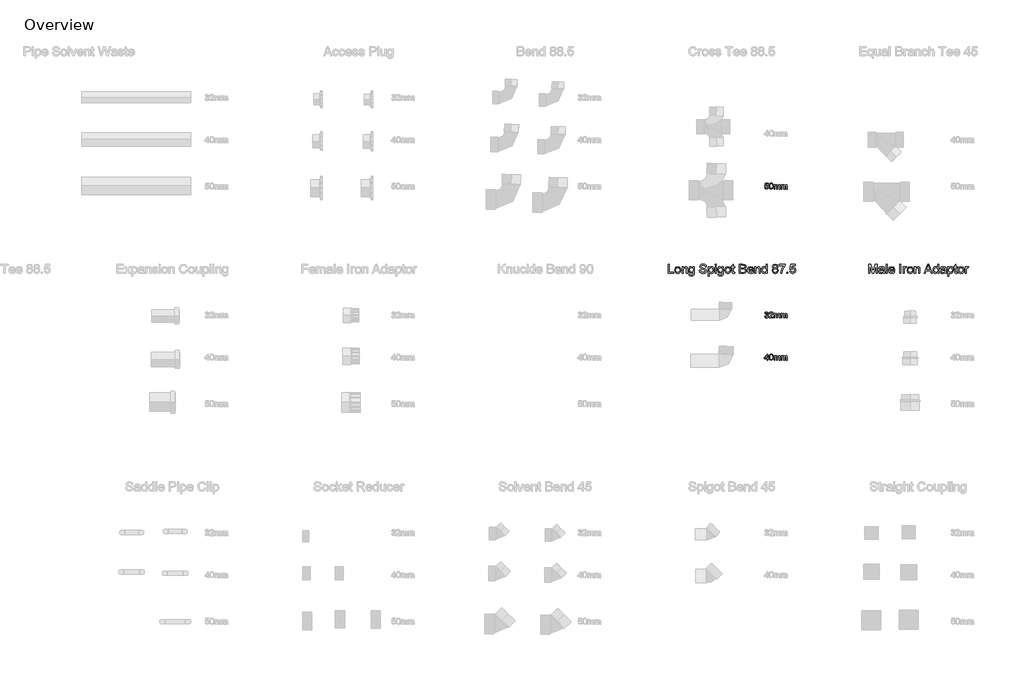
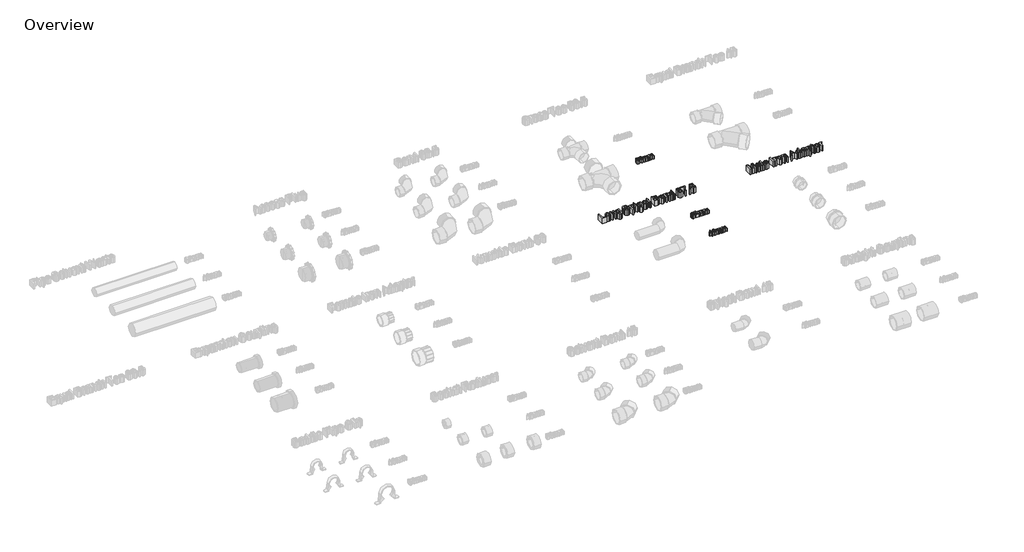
# One storey, part 8 of 10: 5 proxies.
"""IFC4 building model written with IfcOpenShell, lengths in millimetres."""

from ifc_helpers import new_model, si_unit, origin, origin_with_axes, place, context, project, spatial, polyline, outline, extrude, element, save

model = new_model("IFC4")

# Units and contexts
model_context = context("Model", 3, world=origin())
ifc_project = project(units=[si_unit("LENGTHUNIT", "METRE", prefix="MILLI")], contexts=[model_context])

# Site, building, storey
site = spatial("IfcSite", under=ifc_project)
building = spatial("IfcBuilding", under=site)
storey = spatial("IfcBuildingStorey", under=building, Name="Overview", Elevation=0.0)

# Proxies
placement = place(None, origin())
element("IfcBuildingElementProxy", 1, Name="20mm Arial", ObjectType="20mm Arial", at=placement, inside=storey, context=model_context, shape_type="SweptSolid", body=[
    extrude(outline(polyline([(-498.2349117, 4421.4652453), (-495.7733732, 4421.7729376), (-494.4152001, 4419.1815914), (-491.8743347, 4418.3883222), (-488.8839501, 4419.4796684), (-487.7733732, 4422.1815914), (-488.8743347, 4424.7272645), (-491.6724117, 4425.7344761), (-493.3983732, 4425.4652453), (-493.1243347, 4427.9267837), (-489.9368347, 4428.6046684), (-488.6964501, 4430.7777453), (-489.5954886, 4432.7032261), (-491.9127963, 4433.4652453), (-494.2589501, 4432.6960145), (-495.4656809, 4430.3883222), (-497.9272194, 4430.6960145), (-495.9127963, 4434.5565914), (-491.9993347, 4435.9267837), (-489.0305847, 4435.251303), (-486.9536617, 4433.4051491), (-486.2349117, 4430.9219761), (-486.917604, 4428.6527453), (-488.9368347, 4427.0229376), (-486.2541424, 4425.3402453), (-485.3118347, 4422.1383222), (-487.1964501, 4417.7344761), (-491.9608732, 4415.9267837), (-496.2781809, 4417.470053), (-498.2349117, 4421.4652453)])), origin_with_axes(), (0.0, 0.0, 1.0), 15.0),
    extrude(outline(polyline([(-470.542604, 4418.6960145), (-470.542604, 4416.2344761), (-483.4656809, 4416.2344761), (-483.2012578, 4417.9315914), (-481.7060655, 4420.5445722), (-478.6243347, 4423.3979376), (-474.3743347, 4427.4988991), (-473.3118347, 4430.2873607), (-474.3142386, 4432.5445722), (-476.9320271, 4433.4652453), (-479.6603924, 4432.5662068), (-480.6964501, 4430.0806299), (-483.1579886, 4430.3883222), (-481.2709694, 4434.5085145), (-476.8791424, 4435.9267837), (-472.4728924, 4434.3498607), (-470.8502963, 4430.4363991), (-471.2877963, 4428.1022645), (-472.7421232, 4425.688803), (-476.2685655, 4422.3162068), (-479.1002963, 4419.9484184), (-480.2108732, 4418.6960145), (-470.542604, 4418.6960145)])), origin_with_axes(), (0.0, 0.0, 1.0), 15.0),
    extrude(outline(polyline([(-467.4656809, 4416.2344761), (-467.4656809, 4430.6960145), (-465.0041424, 4430.6960145), (-465.0041424, 4428.3162068), (-463.3118347, 4430.2657261), (-460.9031809, 4431.0037068), (-458.4368347, 4430.251303), (-457.0810655, 4428.1431299), (-452.7349117, 4431.0037068), (-449.5161617, 4429.813803), (-448.3887578, 4426.1479376), (-448.3887578, 4416.2344761), (-450.8502963, 4416.2344761), (-450.8502963, 4425.0902453), (-451.0786617, 4427.1455337), (-455.7325078, 4427.5565914), (-456.6964501, 4424.3979376), (-456.6964501, 4416.2344761), (-459.1579886, 4416.2344761), (-459.1579886, 4425.3642837), (-459.7277001, 4427.7488991), (-461.5954886, 4428.5421684), (-463.417604, 4428.0133222), (-464.6291424, 4426.4652453), (-465.0041424, 4423.5277453), (-465.0041424, 4416.2344761), (-467.4656809, 4416.2344761)])), origin_with_axes(), (0.0, 0.0, 1.0), 15.0),
    extrude(outline(polyline([(-444.6964501, 4416.2344761), (-444.6964501, 4430.6960145), (-442.2349117, 4430.6960145), (-442.2349117, 4428.3162068), (-440.542604, 4430.2657261), (-438.1339501, 4431.0037068), (-435.667604, 4430.251303), (-434.3118347, 4428.1431299), (-429.9656809, 4431.0037068), (-426.7469309, 4429.813803), (-425.6195271, 4426.1479376), (-425.6195271, 4416.2344761), (-428.0810655, 4416.2344761), (-428.0810655, 4425.0902453), (-428.3094309, 4427.1455337), (-432.9632771, 4427.5565914), (-433.9272194, 4424.3979376), (-433.9272194, 4416.2344761), (-436.3887578, 4416.2344761), (-436.3887578, 4425.3642837), (-436.9584694, 4427.7488991), (-438.8262578, 4428.5421684), (-440.6483732, 4428.0133222), (-441.8599117, 4426.4652453), (-442.2349117, 4423.5277453), (-442.2349117, 4416.2344761), (-444.6964501, 4416.2344761)])), origin_with_axes(), (0.0, 0.0, 1.0), 15.0),
])
element("IfcBuildingElementProxy", 2, Name="20mm Arial", ObjectType="20mm Arial", at=placement, inside=storey, context=model_context, shape_type="SweptSolid", body=[
    extrude(outline(polyline([(-490.2349117, 4280.5685355), (-490.2349117, 4285.1839201), (-499.1579886, 4285.1839201), (-499.1579886, 4287.6454586), (-489.6195271, 4299.9531509), (-487.7733732, 4299.9531509), (-487.7733732, 4287.6454586), (-485.3118347, 4287.6454586), (-485.3118347, 4285.1839201), (-487.7733732, 4285.1839201), (-487.7733732, 4280.5685355), (-490.2349117, 4280.5685355)]), holes=[polyline([(-490.2349117, 4287.6454586), (-490.2349117, 4295.2512278), (-496.1291424, 4287.6454586), (-490.2349117, 4287.6454586)])]), origin_with_axes(), (0.0, 0.0, 1.0), 15.0),
    extrude(outline(polyline([(-483.1579886, 4290.2560355), (-482.4344309, 4295.9219009), (-480.2853924, 4299.1887278), (-476.6964501, 4300.2608432), (-473.8214501, 4299.6262278), (-471.8358732, 4297.7969009), (-470.6820271, 4294.8834393), (-470.2349117, 4290.2560355), (-470.9512578, 4284.6142086), (-473.0930847, 4281.3401701), (-476.6964501, 4280.2608432), (-481.1964501, 4282.1358432), (-483.1579886, 4290.2560355)]), holes=[polyline([(-480.6964501, 4290.2608432), (-479.542604, 4284.1478624), (-476.6964501, 4282.7223816), (-473.8502963, 4284.1526701), (-472.6964501, 4290.2608432), (-473.8118347, 4296.3041124), (-476.7252963, 4297.7993047), (-479.5041424, 4296.481997), (-480.6964501, 4290.2608432)])]), origin_with_axes(), (0.0, 0.0, 1.0), 15.0),
    extrude(outline(polyline([(-467.4656809, 4280.5685355), (-467.4656809, 4295.030074), (-465.0041424, 4295.030074), (-465.0041424, 4292.6502663), (-463.3118347, 4294.5997855), (-460.9031809, 4295.3377663), (-458.4368347, 4294.5853624), (-457.0810655, 4292.4771893), (-452.7349117, 4295.3377663), (-449.5161617, 4294.1478624), (-448.3887578, 4290.481997), (-448.3887578, 4280.5685355), (-450.8502963, 4280.5685355), (-450.8502963, 4289.4243047), (-451.0786617, 4291.4795932), (-455.7325078, 4291.8906509), (-456.6964501, 4288.731997), (-456.6964501, 4280.5685355), (-459.1579886, 4280.5685355), (-459.1579886, 4289.6983432), (-459.7277001, 4292.0829586), (-461.5954886, 4292.8762278), (-463.417604, 4292.3473816), (-464.6291424, 4290.7993047), (-465.0041424, 4287.8618047), (-465.0041424, 4280.5685355), (-467.4656809, 4280.5685355)])), origin_with_axes(), (0.0, 0.0, 1.0), 15.0),
    extrude(outline(polyline([(-444.6964501, 4280.5685355), (-444.6964501, 4295.030074), (-442.2349117, 4295.030074), (-442.2349117, 4292.6502663), (-440.542604, 4294.5997855), (-438.1339501, 4295.3377663), (-435.667604, 4294.5853624), (-434.3118347, 4292.4771893), (-429.9656809, 4295.3377663), (-426.7469309, 4294.1478624), (-425.6195271, 4290.481997), (-425.6195271, 4280.5685355), (-428.0810655, 4280.5685355), (-428.0810655, 4289.4243047), (-428.3094309, 4291.4795932), (-432.9632771, 4291.8906509), (-433.9272194, 4288.731997), (-433.9272194, 4280.5685355), (-436.3887578, 4280.5685355), (-436.3887578, 4289.6983432), (-436.9584694, 4292.0829586), (-438.8262578, 4292.8762278), (-440.6483732, 4292.3473816), (-441.8599117, 4290.7993047), (-442.2349117, 4287.8618047), (-442.2349117, 4280.5685355), (-444.6964501, 4280.5685355)])), origin_with_axes(), (0.0, 0.0, 1.0), 15.0),
])
element("IfcBuildingElementProxy", 3, Name="20mm Arial", ObjectType="20mm Arial", at=placement, inside=storey, context=model_context, shape_type="SweptSolid", body=[
    extrude(outline(polyline([(-498.2349117, 4836.1445961), (-495.7733732, 4836.4522884), (-494.5329886, 4833.9162307), (-491.9608732, 4833.067673), (-488.8743347, 4834.2479615), (-487.7733732, 4837.380173), (-488.8046232, 4840.3032499), (-491.9224117, 4841.3753653), (-494.0834694, 4840.9474807), (-495.4656809, 4839.8369038), (-497.9272194, 4840.1445961), (-495.7733732, 4850.2984422), (-486.2349117, 4850.2984422), (-486.2349117, 4847.8369038), (-493.7829886, 4847.8369038), (-494.8358732, 4842.4138269), (-491.2349117, 4843.8369038), (-487.0257771, 4842.0724807), (-485.3118347, 4837.5340192), (-486.855104, 4832.9667115), (-491.9704886, 4830.6061346), (-496.3142386, 4832.1229615), (-498.2349117, 4836.1445961)])), origin_with_axes(), (0.0, 0.0, 1.0), 15.0),
    extrude(outline(polyline([(-483.1579886, 4840.6013269), (-482.4344309, 4846.2671922), (-480.2853924, 4849.5340192), (-476.6964501, 4850.6061346), (-473.8214501, 4849.9715192), (-471.8358732, 4848.1421922), (-470.6820271, 4845.2287307), (-470.2349117, 4840.6013269), (-470.9512578, 4834.9594999), (-473.0930847, 4831.6854615), (-476.6964501, 4830.6061346), (-481.1964501, 4832.4811346), (-483.1579886, 4840.6013269)]), holes=[polyline([(-480.6964501, 4840.6061346), (-479.542604, 4834.4931538), (-476.6964501, 4833.067673), (-473.8502963, 4834.4979615), (-472.6964501, 4840.6061346), (-473.8118347, 4846.6494038), (-476.7252963, 4848.1445961), (-479.5041424, 4846.8272884), (-480.6964501, 4840.6061346)])]), origin_with_axes(), (0.0, 0.0, 1.0), 15.0),
    extrude(outline(polyline([(-467.4656809, 4830.9138269), (-467.4656809, 4845.3753653), (-465.0041424, 4845.3753653), (-465.0041424, 4842.9955576), (-463.3118347, 4844.9450769), (-460.9031809, 4845.6830576), (-458.4368347, 4844.9306538), (-457.0810655, 4842.8224807), (-452.7349117, 4845.6830576), (-449.5161617, 4844.4931538), (-448.3887578, 4840.8272884), (-448.3887578, 4830.9138269), (-450.8502963, 4830.9138269), (-450.8502963, 4839.7695961), (-451.0786617, 4841.8248846), (-455.7325078, 4842.2359422), (-456.6964501, 4839.0772884), (-456.6964501, 4830.9138269), (-459.1579886, 4830.9138269), (-459.1579886, 4840.0436346), (-459.7277001, 4842.4282499), (-461.5954886, 4843.2215192), (-463.417604, 4842.692673), (-464.6291424, 4841.1445961), (-465.0041424, 4838.2070961), (-465.0041424, 4830.9138269), (-467.4656809, 4830.9138269)])), origin_with_axes(), (0.0, 0.0, 1.0), 15.0),
    extrude(outline(polyline([(-444.6964501, 4830.9138269), (-444.6964501, 4845.3753653), (-442.2349117, 4845.3753653), (-442.2349117, 4842.9955576), (-440.542604, 4844.9450769), (-438.1339501, 4845.6830576), (-435.667604, 4844.9306538), (-434.3118347, 4842.8224807), (-429.9656809, 4845.6830576), (-426.7469309, 4844.4931538), (-425.6195271, 4840.8272884), (-425.6195271, 4830.9138269), (-428.0810655, 4830.9138269), (-428.0810655, 4839.7695961), (-428.3094309, 4841.8248846), (-432.9632771, 4842.2359422), (-433.9272194, 4839.0772884), (-433.9272194, 4830.9138269), (-436.3887578, 4830.9138269), (-436.3887578, 4840.0436346), (-436.9584694, 4842.4282499), (-438.8262578, 4843.2215192), (-440.6483732, 4842.692673), (-441.8599117, 4841.1445961), (-442.2349117, 4838.2070961), (-442.2349117, 4830.9138269), (-444.6964501, 4830.9138269)])), origin_with_axes(), (0.0, 0.0, 1.0), 15.0),
])
element("IfcBuildingElementProxy", 4, Name="600mm Arial", ObjectType="600mm Arial", at=placement, inside=storey, context=model_context, shape_type="SweptSolid", body=[
    extrude(outline(polyline([(-808.3769703, 4559.5713154), (-808.3769703, 4589.1097769), (-804.6846626, 4589.1097769), (-804.6846626, 4563.2636231), (-789.9154319, 4563.2636231), (-789.9154319, 4559.5713154), (-808.3769703, 4559.5713154)])), origin_with_axes(), (0.0, 0.0, 1.0), 25.0),
    extrude(outline(polyline([(-787.1462011, 4570.4174692), (-783.9514896, 4579.3237192), (-777.4466819, 4581.7251615), (-770.4695184, 4578.8008827), (-767.7615857, 4570.7203538), (-768.9587011, 4564.1506423), (-772.4454799, 4560.4330942), (-777.4466819, 4559.1097769), (-784.4671146, 4562.0232385), (-787.1462011, 4570.4174692)]), holes=[polyline([(-783.4538934, 4570.4246808), (-781.7447588, 4564.702325), (-777.4466819, 4562.8020846), (-773.163028, 4564.7131423), (-771.4538934, 4570.5400654), (-773.1738453, 4576.1326135), (-777.4466819, 4578.0328538), (-781.7447588, 4576.139825), (-783.4538934, 4570.4246808)])]), origin_with_axes(), (0.0, 0.0, 1.0), 25.0),
    extrude(outline(polyline([(-763.6077396, 4559.5713154), (-763.6077396, 4581.2636231), (-759.9154319, 4581.2636231), (-759.9154319, 4578.2347769), (-753.2375472, 4581.7251615), (-749.7507684, 4581.0220365), (-747.3709607, 4579.1758827), (-746.2639896, 4576.4607385), (-746.069278, 4572.8910269), (-746.069278, 4559.5713154), (-749.7615857, 4559.5713154), (-749.7615857, 4572.3934308), (-750.1870665, 4575.6602577), (-751.6906722, 4577.3874212), (-754.225528, 4578.0328538), (-758.2315376, 4576.5833346), (-759.9154319, 4571.0809308), (-759.9154319, 4559.5713154), (-763.6077396, 4559.5713154)])), origin_with_axes(), (0.0, 0.0, 1.0), 25.0),
    extrude(outline(polyline([(-741.9154319, 4557.7251615), (-738.2231242, 4557.2636231), (-737.0260088, 4555.3165077), (-733.4418742, 4554.4943923), (-729.663028, 4555.4246808), (-727.8601434, 4558.0352577), (-727.6077396, 4562.3405462), (-733.3769703, 4559.5713154), (-740.022403, 4562.7948731), (-742.3769703, 4570.5256423), (-741.3204799, 4576.2479981), (-738.2627876, 4580.2972769), (-733.5572588, 4581.7251615), (-727.6077396, 4578.4943923), (-727.6077396, 4581.2636231), (-723.9154319, 4581.2636231), (-723.9154319, 4562.5352577), (-724.9250472, 4555.3633827), (-728.1233646, 4552.0280462), (-733.5139896, 4550.8020846), (-739.6546146, 4552.5292481), (-741.9154319, 4557.7251615)]), holes=[polyline([(-738.6846626, 4570.7780462), (-737.1089415, 4565.0629019), (-733.1534126, 4563.2636231), (-729.2050953, 4565.0520846), (-727.6077396, 4570.6698731), (-729.2519703, 4576.1758827), (-733.2111049, 4578.0328538), (-737.0873069, 4576.2047288), (-738.6846626, 4570.7780462)])]), origin_with_axes(), (0.0, 0.0, 1.0), 25.0),
    extrude(outline(polyline([(-707.7615857, 4569.7251615), (-704.069278, 4569.7251615), (-702.8793742, 4566.0292481), (-699.9731242, 4563.6927096), (-695.5452396, 4562.8020846), (-691.6870665, 4563.4763635), (-689.1954799, 4565.3297288), (-688.3769703, 4567.8068923), (-688.9899511, 4570.1109788), (-691.4995665, 4571.7876615), (-696.8757684, 4573.1975173), (-702.663028, 4575.0184308), (-705.803653, 4577.7660269), (-706.8385088, 4581.4367), (-705.5584607, 4585.6157865), (-701.819278, 4588.5653058), (-696.3457203, 4589.5713154), (-690.5043742, 4588.5184308), (-686.6101434, 4585.4246808), (-685.1462011, 4580.8020846), (-688.8385088, 4580.8020846), (-690.9298549, 4584.5953538), (-696.2014896, 4585.8790077), (-701.4875472, 4584.6097769), (-703.1462011, 4581.5448731), (-701.9707203, 4578.9847769), (-695.9418742, 4576.9222769), (-689.4082203, 4575.0689115), (-685.834903, 4572.0761231), (-684.6846626, 4567.9006423), (-686.0079799, 4563.483575), (-689.8156722, 4560.2600173), (-695.4010088, 4559.1097769), (-701.9959607, 4560.3501615), (-706.1678357, 4564.0857385), (-707.7615857, 4569.7251615)])), origin_with_axes(), (0.0, 0.0, 1.0), 25.0),
    extrude(outline(polyline([(-679.6077396, 4551.2636231), (-679.6077396, 4581.2636231), (-675.9154319, 4581.2636231), (-675.9154319, 4577.6434308), (-673.3625472, 4580.7047288), (-669.9154319, 4581.7251615), (-665.2351434, 4580.2972769), (-662.1774511, 4576.2732385), (-661.1462011, 4570.5833346), (-662.3108646, 4564.6013635), (-665.6930761, 4560.5268442), (-670.3625472, 4559.1097769), (-673.5752876, 4560.0580942), (-675.9154319, 4562.4559308), (-675.9154319, 4551.2636231), (-679.6077396, 4551.2636231)]), holes=[polyline([(-675.9154319, 4570.2443923), (-674.3180761, 4564.6193923), (-670.4418742, 4562.8020846), (-666.4863453, 4564.6842962), (-664.8385088, 4570.5184308), (-666.4466819, 4576.1578538), (-670.2904319, 4578.0328538), (-674.209903, 4576.0388635), (-675.9154319, 4570.2443923)])]), origin_with_axes(), (0.0, 0.0, 1.0), 25.0),
    extrude(outline(polyline([(-656.9923549, 4585.4174692), (-656.9923549, 4589.1097769), (-653.3000472, 4589.1097769), (-653.3000472, 4585.4174692), (-656.9923549, 4585.4174692)])), origin_with_axes(), (0.0, 0.0, 1.0), 25.0),
    extrude(outline(polyline([(-656.9923549, 4559.5713154), (-656.9923549, 4581.2636231), (-653.3000472, 4581.2636231), (-653.3000472, 4559.5713154), (-656.9923549, 4559.5713154)])), origin_with_axes(), (0.0, 0.0, 1.0), 25.0),
    extrude(outline(polyline([(-648.6846626, 4557.7251615), (-644.9923549, 4557.2636231), (-643.7952396, 4555.3165077), (-640.2111049, 4554.4943923), (-636.4322588, 4555.4246808), (-634.6293742, 4558.0352577), (-634.3769703, 4562.3405462), (-640.1462011, 4559.5713154), (-646.7916338, 4562.7948731), (-649.1462011, 4570.5256423), (-648.0897107, 4576.2479981), (-645.0320184, 4580.2972769), (-640.3264896, 4581.7251615), (-634.3769703, 4578.4943923), (-634.3769703, 4581.2636231), (-630.6846626, 4581.2636231), (-630.6846626, 4562.5352577), (-631.694278, 4555.3633827), (-634.8925953, 4552.0280462), (-640.2832203, 4550.8020846), (-646.4238453, 4552.5292481), (-648.6846626, 4557.7251615)]), holes=[polyline([(-645.4538934, 4570.7780462), (-643.8781722, 4565.0629019), (-639.9226434, 4563.2636231), (-635.9743261, 4565.0520846), (-634.3769703, 4570.6698731), (-636.0212011, 4576.1758827), (-639.9803357, 4578.0328538), (-643.8565376, 4576.2047288), (-645.4538934, 4570.7780462)])]), origin_with_axes(), (0.0, 0.0, 1.0), 25.0),
    extrude(outline(polyline([(-626.069278, 4570.4174692), (-622.8745665, 4579.3237192), (-616.3697588, 4581.7251615), (-609.3925953, 4578.8008827), (-606.6846626, 4570.7203538), (-607.881778, 4564.1506423), (-611.3685569, 4560.4330942), (-616.3697588, 4559.1097769), (-623.3901915, 4562.0232385), (-626.069278, 4570.4174692)]), holes=[polyline([(-622.3769703, 4570.4246808), (-620.6678357, 4564.702325), (-616.3697588, 4562.8020846), (-612.0861049, 4564.7131423), (-610.3769703, 4570.5400654), (-612.0969222, 4576.1326135), (-616.3697588, 4578.0328538), (-620.6678357, 4576.139825), (-622.3769703, 4570.4246808)])]), origin_with_axes(), (0.0, 0.0, 1.0), 25.0),
    extrude(outline(polyline([(-594.6846626, 4562.6506423), (-594.2231242, 4559.4631423), (-596.9851434, 4559.1097769), (-600.0788934, 4559.7227577), (-601.6221626, 4561.3309308), (-602.069278, 4565.5208346), (-602.069278, 4577.5713154), (-604.8385088, 4577.5713154), (-604.8385088, 4581.2636231), (-602.069278, 4581.2636231), (-602.069278, 4586.5352577), (-598.3769703, 4588.7059308), (-598.3769703, 4581.2636231), (-594.6846626, 4581.2636231), (-594.6846626, 4577.5713154), (-598.3769703, 4577.5713154), (-598.3769703, 4565.6290077), (-598.1822588, 4563.7251615), (-594.6846626, 4562.6506423)])), origin_with_axes(), (0.0, 0.0, 1.0), 25.0),
    extrude(outline(polyline([(-578.9923549, 4559.5713154), (-578.9923549, 4589.1097769), (-567.7207203, 4589.1097769), (-562.2002876, 4588.2407865), (-558.9406722, 4585.5689115), (-557.7615857, 4581.7900654), (-558.7531722, 4578.3393442), (-561.7495665, 4575.7251615), (-558.1113453, 4572.9703538), (-556.8385088, 4568.3766038), (-557.7074992, 4564.4066519), (-559.8601434, 4561.5797288), (-563.0728838, 4560.0797288), (-567.8072588, 4559.5713154), (-578.9923549, 4559.5713154)]), holes=[polyline([(-575.3000472, 4577.1097769), (-568.5572588, 4577.1097769), (-564.6197588, 4577.4270846), (-562.2507684, 4578.7936712), (-561.4538934, 4581.1987192), (-562.1966819, 4583.6073731), (-564.3240857, 4585.0316519), (-569.069278, 4585.4174692), (-575.3000472, 4585.4174692), (-575.3000472, 4577.1097769)]), polyline([(-575.3000472, 4563.2636231), (-567.7279319, 4563.2636231), (-564.9875472, 4563.4078538), (-562.6690376, 4564.2119404), (-561.1329799, 4565.8525654), (-560.5308165, 4568.3405462), (-561.2375472, 4571.2107385), (-563.5272107, 4572.9234788), (-568.0885088, 4573.4174692), (-575.3000472, 4573.4174692), (-575.3000472, 4563.2636231)])]), origin_with_axes(), (0.0, 0.0, 1.0), 25.0),
    extrude(outline(polyline([(-537.0356242, 4566.0328538), (-533.4154319, 4565.5713154), (-536.8012492, 4560.8044885), (-543.1077396, 4559.1097769), (-550.7736049, 4562.0340558), (-553.6077396, 4570.2371808), (-550.7447588, 4578.7107385), (-543.3168742, 4581.7251615), (-536.1017299, 4578.71795), (-533.3000472, 4570.2588154), (-549.9154319, 4569.2636231), (-547.7916338, 4564.46795), (-543.0356242, 4562.8020846), (-539.4154319, 4563.5737192), (-537.0356242, 4566.0328538)]), holes=[polyline([(-549.9154319, 4572.9559308), (-536.9923549, 4572.9559308), (-538.4707203, 4576.3020846), (-543.3312972, 4578.0328538), (-547.8781722, 4576.6518442), (-549.9154319, 4572.9559308)])]), origin_with_axes(), (0.0, 0.0, 1.0), 25.0),
    extrude(outline(polyline([(-529.6077396, 4559.5713154), (-529.6077396, 4581.2636231), (-525.9154319, 4581.2636231), (-525.9154319, 4578.2347769), (-519.2375472, 4581.7251615), (-515.7507684, 4581.0220365), (-513.3709607, 4579.1758827), (-512.2639896, 4576.4607385), (-512.069278, 4572.8910269), (-512.069278, 4559.5713154), (-515.7615857, 4559.5713154), (-515.7615857, 4572.3934308), (-516.1870665, 4575.6602577), (-517.6906722, 4577.3874212), (-520.225528, 4578.0328538), (-524.2315376, 4576.5833346), (-525.9154319, 4571.0809308), (-525.9154319, 4559.5713154), (-529.6077396, 4559.5713154)])), origin_with_axes(), (0.0, 0.0, 1.0), 25.0),
    extrude(outline(polyline([(-493.6077396, 4559.5713154), (-493.6077396, 4563.0544885), (-499.4274511, 4559.1097769), (-503.9995665, 4560.5376615), (-507.2303357, 4564.5220365), (-508.3769703, 4570.3958346), (-507.3204799, 4576.2732385), (-504.1546146, 4580.3189115), (-499.4418742, 4581.7251615), (-496.038028, 4580.7191519), (-493.6077396, 4578.1049692), (-493.6077396, 4589.1097769), (-489.9154319, 4589.1097769), (-489.9154319, 4559.5713154), (-493.6077396, 4559.5713154)]), holes=[polyline([(-504.6846626, 4570.4102577), (-503.0187972, 4564.6951135), (-499.0885088, 4562.8020846), (-495.2050953, 4564.608575), (-493.6077396, 4570.1290077), (-495.2339415, 4576.1217962), (-499.2399511, 4578.0328538), (-503.1269703, 4576.1975173), (-504.6846626, 4570.4102577)])]), origin_with_axes(), (0.0, 0.0, 1.0), 25.0),
    extrude(outline(polyline([(-468.381778, 4575.8405462), (-471.7459607, 4578.1338154), (-472.8385088, 4581.7035269), (-470.4587011, 4586.9751615), (-464.1197588, 4589.1097769), (-457.7231242, 4586.9246808), (-455.3000472, 4581.6025654), (-456.3781722, 4578.1229981), (-459.6486049, 4575.8405462), (-455.7219222, 4572.9451135), (-454.3769703, 4568.1674692), (-457.0452396, 4561.7203538), (-464.069278, 4559.1097769), (-471.0933165, 4561.7311712), (-473.7615857, 4568.2684308), (-472.3625472, 4573.1578538), (-468.381778, 4575.8405462)]), holes=[polyline([(-469.1462011, 4581.5953538), (-467.8373069, 4578.6963154), (-464.0260088, 4577.5713154), (-460.2904319, 4578.6891038), (-458.9923549, 4581.4294885), (-460.3337011, 4584.2672288), (-464.069278, 4585.4174692), (-467.8156722, 4584.2924692), (-469.1462011, 4581.5953538)]), polyline([(-470.069278, 4568.3982385), (-469.4526915, 4565.6181904), (-467.2712011, 4563.5376615), (-464.0404319, 4562.8020846), (-459.6413934, 4564.3489596), (-458.069278, 4568.2828538), (-459.6918742, 4572.2924692), (-464.163028, 4573.8790077), (-468.5079799, 4572.3141038), (-470.069278, 4568.3982385)])]), origin_with_axes(), (0.0, 0.0, 1.0), 25.0),
    extrude(outline(polyline([(-451.1462011, 4584.9559308), (-451.1462011, 4588.6482385), (-431.7615857, 4588.6482385), (-431.7615857, 4585.6626615), (-437.2603838, 4577.7191519), (-441.4683165, 4567.5977577), (-442.8385088, 4559.5713154), (-446.5308165, 4559.5713154), (-445.0632684, 4567.9006423), (-441.0356242, 4577.3153058), (-435.4538934, 4584.9559308), (-451.1462011, 4584.9559308)])), origin_with_axes(), (0.0, 0.0, 1.0), 25.0),
    extrude(outline(polyline([(-426.6846626, 4559.5713154), (-426.6846626, 4563.2636231), (-422.9923549, 4563.2636231), (-422.9923549, 4559.5713154), (-426.6846626, 4559.5713154)])), origin_with_axes(), (0.0, 0.0, 1.0), 25.0),
    extrude(outline(polyline([(-416.9923549, 4567.4174692), (-413.3000472, 4567.8790077), (-411.4394703, 4564.0749212), (-407.5812972, 4562.8020846), (-402.9514896, 4564.5725173), (-401.3000472, 4569.2708346), (-402.8469222, 4573.65545), (-407.5236049, 4575.2636231), (-410.7651915, 4574.6217962), (-412.8385088, 4572.9559308), (-416.5308165, 4573.4174692), (-413.3000472, 4588.6482385), (-398.9923549, 4588.6482385), (-398.9923549, 4584.9559308), (-410.3144703, 4584.9559308), (-411.8937972, 4576.8213154), (-406.4923549, 4578.9559308), (-400.178653, 4576.3092962), (-397.6077396, 4569.5016038), (-399.9226434, 4562.6506423), (-407.5957203, 4559.1097769), (-414.1113453, 4561.3850173), (-416.9923549, 4567.4174692)])), origin_with_axes(), (0.0, 0.0, 1.0), 25.0),
])
element("IfcBuildingElementProxy", 5, Name="600mm Arial", ObjectType="600mm Arial", at=placement, inside=storey, context=model_context, shape_type="SweptSolid", body=[
    extrude(outline(polyline([(-163.1462011, 4559.5713154), (-163.1462011, 4589.1097769), (-156.7928357, 4589.1097769), (-150.7495665, 4568.2900654), (-149.5308165, 4563.9415077), (-148.2111049, 4568.6506423), (-142.2687972, 4589.1097769), (-135.9154319, 4589.1097769), (-135.9154319, 4559.5713154), (-139.6077396, 4559.5713154), (-139.6077396, 4585.4174692), (-147.0284126, 4559.5713154), (-152.0332203, 4559.5713154), (-159.4538934, 4585.4174692), (-159.4538934, 4559.5713154), (-163.1462011, 4559.5713154)])), origin_with_axes(), (0.0, 0.0, 1.0), 25.0),
    extrude(outline(polyline([(-116.069278, 4562.3405462), (-119.6498069, 4559.8381423), (-123.6053357, 4559.1097769), (-128.9671146, 4560.8621808), (-130.8385088, 4565.3405462), (-130.131778, 4568.2612192), (-128.2748069, 4570.3814115), (-125.6894703, 4571.59295), (-122.4947588, 4572.1482385), (-116.0909126, 4573.4174692), (-117.0861049, 4576.9655462), (-121.1678357, 4578.0328538), (-124.9034126, 4577.3225173), (-126.6846626, 4574.8020846), (-130.3769703, 4575.2636231), (-128.7796146, 4578.8693923), (-125.5632684, 4580.9823731), (-120.6918742, 4581.7251615), (-116.2171146, 4581.0689115), (-113.6894703, 4579.421075), (-112.5572588, 4576.9150654), (-112.3769703, 4573.6842962), (-112.3769703, 4569.0905462), (-112.1894703, 4562.6758827), (-111.4538934, 4559.5713154), (-115.1462011, 4559.5713154), (-116.069278, 4562.3405462)]), holes=[polyline([(-116.0800953, 4569.202325), (-122.0260088, 4568.59295), (-125.2026915, 4567.9943923), (-126.6413934, 4567.0208346), (-126.0464415, 4563.6025654), (-122.819278, 4562.8020846), (-119.0837011, 4563.6854981), (-116.6750472, 4565.8237192), (-116.0800953, 4569.202325)])]), origin_with_axes(), (0.0, 0.0, 1.0), 25.0),
    extrude(outline(polyline([(-107.3000472, 4559.5713154), (-107.3000472, 4589.1097769), (-103.6077396, 4589.1097769), (-103.6077396, 4559.5713154), (-107.3000472, 4559.5713154)])), origin_with_axes(), (0.0, 0.0, 1.0), 25.0),
    extrude(outline(polyline([(-82.881778, 4566.0328538), (-79.2615857, 4565.5713154), (-82.647403, 4560.8044885), (-88.9538934, 4559.1097769), (-96.6197588, 4562.0340558), (-99.4538934, 4570.2371808), (-96.5909126, 4578.7107385), (-89.163028, 4581.7251615), (-81.9478838, 4578.71795), (-79.1462011, 4570.2588154), (-95.7615857, 4569.2636231), (-93.6377876, 4564.46795), (-88.881778, 4562.8020846), (-85.2615857, 4563.5737192), (-82.881778, 4566.0328538)]), holes=[polyline([(-95.7615857, 4572.9559308), (-82.8385088, 4572.9559308), (-84.3168742, 4576.3020846), (-89.1774511, 4578.0328538), (-93.7243261, 4576.6518442), (-95.7615857, 4572.9559308)])]), origin_with_axes(), (0.0, 0.0, 1.0), 25.0),
    extrude(outline(polyline([(-62.9923549, 4559.5713154), (-62.9923549, 4589.1097769), (-59.3000472, 4589.1097769), (-59.3000472, 4559.5713154), (-62.9923549, 4559.5713154)])), origin_with_axes(), (0.0, 0.0, 1.0), 25.0),
    extrude(outline(polyline([(-52.3769703, 4559.5713154), (-52.3769703, 4581.2636231), (-49.1462011, 4581.2636231), (-49.1462011, 4578.0544885), (-46.8529319, 4581.0112192), (-44.5452396, 4581.7251615), (-40.8385088, 4580.5857385), (-42.0716819, 4577.2756423), (-44.6678357, 4578.0328538), (-46.7555761, 4577.3044885), (-48.0861049, 4575.2852577), (-48.6846626, 4570.9727577), (-48.6846626, 4559.5713154), (-52.3769703, 4559.5713154)])), origin_with_axes(), (0.0, 0.0, 1.0), 25.0),
    extrude(outline(polyline([(-39.4538934, 4570.4174692), (-36.2591819, 4579.3237192), (-29.7543742, 4581.7251615), (-22.7772107, 4578.8008827), (-20.069278, 4570.7203538), (-21.2663934, 4564.1506423), (-24.7531722, 4560.4330942), (-29.7543742, 4559.1097769), (-36.7748069, 4562.0232385), (-39.4538934, 4570.4174692)]), holes=[polyline([(-35.7615857, 4570.4246808), (-34.0524511, 4564.702325), (-29.7543742, 4562.8020846), (-25.4707203, 4564.7131423), (-23.7615857, 4570.5400654), (-25.4815376, 4576.1326135), (-29.7543742, 4578.0328538), (-34.0524511, 4576.139825), (-35.7615857, 4570.4246808)])]), origin_with_axes(), (0.0, 0.0, 1.0), 25.0),
    extrude(outline(polyline([(-15.9154319, 4559.5713154), (-15.9154319, 4581.2636231), (-12.2231242, 4581.2636231), (-12.2231242, 4578.2347769), (-5.5452396, 4581.7251615), (-2.0584607, 4581.0220365), (0.321347, 4579.1758827), (1.4283181, 4576.4607385), (1.6230297, 4572.8910269), (1.6230297, 4559.5713154), (-2.069278, 4559.5713154), (-2.069278, 4572.3934308), (-2.4947588, 4575.6602577), (-3.9983646, 4577.3874212), (-6.5332203, 4578.0328538), (-10.5392299, 4576.5833346), (-12.2231242, 4571.0809308), (-12.2231242, 4559.5713154), (-15.9154319, 4559.5713154)])), origin_with_axes(), (0.0, 0.0, 1.0), 25.0),
    extrude(outline(polyline([(15.2600489, 4559.5713154), (27.0509143, 4589.1097769), (30.1951451, 4589.1097769), (41.9860104, 4559.5713154), (38.0845681, 4559.5713154), (34.7023566, 4568.8020846), (22.5364912, 4568.8020846), (19.1614912, 4559.5713154), (15.2600489, 4559.5713154)]), holes=[polyline([(23.8922604, 4572.4943923), (33.3537989, 4572.4943923), (30.6927412, 4579.7564115), (28.6230297, 4585.4174692), (26.7840874, 4580.3910269), (23.8922604, 4572.4943923)])]), origin_with_axes(), (0.0, 0.0, 1.0), 25.0),
    extrude(outline(polyline([(58.8537989, 4559.5713154), (58.8537989, 4563.0544885), (53.0340874, 4559.1097769), (48.461972, 4560.5376615), (45.2312028, 4564.5220365), (44.0845681, 4570.3958346), (45.1410585, 4576.2732385), (48.3069239, 4580.3189115), (53.0196643, 4581.7251615), (56.4235104, 4580.7191519), (58.8537989, 4578.1049692), (58.8537989, 4589.1097769), (62.5461066, 4589.1097769), (62.5461066, 4559.5713154), (58.8537989, 4559.5713154)]), holes=[polyline([(47.7768758, 4570.4102577), (49.4427412, 4564.6951135), (53.3730297, 4562.8020846), (57.2564431, 4564.608575), (58.8537989, 4570.1290077), (57.227597, 4576.1217962), (53.2215874, 4578.0328538), (49.3345681, 4576.1975173), (47.7768758, 4570.4102577)])]), origin_with_axes(), (0.0, 0.0, 1.0), 25.0),
    extrude(outline(polyline([(81.930722, 4562.3405462), (78.3501931, 4559.8381423), (74.3946643, 4559.1097769), (69.0328854, 4560.8621808), (67.1614912, 4565.3405462), (67.868222, 4568.2612192), (69.7251931, 4570.3814115), (72.3105297, 4571.59295), (75.5052412, 4572.1482385), (81.9090874, 4573.4174692), (80.9138951, 4576.9655462), (76.8321643, 4578.0328538), (73.0965874, 4577.3225173), (71.3153374, 4574.8020846), (67.6230297, 4575.2636231), (69.2203854, 4578.8693923), (72.4367316, 4580.9823731), (77.3081258, 4581.7251615), (81.7828854, 4581.0689115), (84.3105297, 4579.421075), (85.4427412, 4576.9150654), (85.6230297, 4573.6842962), (85.6230297, 4569.0905462), (85.8105297, 4562.6758827), (86.5461066, 4559.5713154), (82.8537989, 4559.5713154), (81.930722, 4562.3405462)]), holes=[polyline([(81.9199047, 4569.202325), (75.9739912, 4568.59295), (72.7973085, 4567.9943923), (71.3586066, 4567.0208346), (71.9535585, 4563.6025654), (75.180722, 4562.8020846), (78.9162989, 4563.6854981), (81.3249528, 4565.8237192), (81.9199047, 4569.202325)])]), origin_with_axes(), (0.0, 0.0, 1.0), 25.0),
    extrude(outline(polyline([(90.6999528, 4551.2636231), (90.6999528, 4581.2636231), (94.3922604, 4581.2636231), (94.3922604, 4577.6434308), (96.9451451, 4580.7047288), (100.3922604, 4581.7251615), (105.0725489, 4580.2972769), (108.1302412, 4576.2732385), (109.1614912, 4570.5833346), (107.9968278, 4564.6013635), (104.6146162, 4560.5268442), (99.9451451, 4559.1097769), (96.7324047, 4560.0580942), (94.3922604, 4562.4559308), (94.3922604, 4551.2636231), (90.6999528, 4551.2636231)]), holes=[polyline([(94.3922604, 4570.2443923), (95.9896162, 4564.6193923), (99.8658181, 4562.8020846), (103.821347, 4564.6842962), (105.4691835, 4570.5184308), (103.8610104, 4576.1578538), (100.0172604, 4578.0328538), (96.0977893, 4576.0388635), (94.3922604, 4570.2443923)])]), origin_with_axes(), (0.0, 0.0, 1.0), 25.0),
    extrude(outline(polyline([(121.1614912, 4562.6506423), (121.6230297, 4559.4631423), (118.8610104, 4559.1097769), (115.7672604, 4559.7227577), (114.2239912, 4561.3309308), (113.7768758, 4565.5208346), (113.7768758, 4577.5713154), (111.0076451, 4577.5713154), (111.0076451, 4581.2636231), (113.7768758, 4581.2636231), (113.7768758, 4586.5352577), (117.4691835, 4588.7059308), (117.4691835, 4581.2636231), (121.1614912, 4581.2636231), (121.1614912, 4577.5713154), (117.4691835, 4577.5713154), (117.4691835, 4565.6290077), (117.6638951, 4563.7251615), (121.1614912, 4562.6506423)])), origin_with_axes(), (0.0, 0.0, 1.0), 25.0),
    extrude(outline(polyline([(123.930722, 4570.4174692), (127.1254335, 4579.3237192), (133.6302412, 4581.7251615), (140.6074047, 4578.8008827), (143.3153374, 4570.7203538), (142.118222, 4564.1506423), (138.6314431, 4560.4330942), (133.6302412, 4559.1097769), (126.6098085, 4562.0232385), (123.930722, 4570.4174692)]), holes=[polyline([(127.6230297, 4570.4246808), (129.3321643, 4564.702325), (133.6302412, 4562.8020846), (137.9138951, 4564.7131423), (139.6230297, 4570.5400654), (137.9030778, 4576.1326135), (133.6302412, 4578.0328538), (129.3321643, 4576.139825), (127.6230297, 4570.4246808)])]), origin_with_axes(), (0.0, 0.0, 1.0), 25.0),
    extrude(outline(polyline([(147.4691835, 4559.5713154), (147.4691835, 4581.2636231), (150.6999528, 4581.2636231), (150.6999528, 4578.0544885), (152.993222, 4581.0112192), (155.3009143, 4581.7251615), (159.0076451, 4580.5857385), (157.774472, 4577.2756423), (155.1783181, 4578.0328538), (153.0905778, 4577.3044885), (151.7600489, 4575.2852577), (151.1614912, 4570.9727577), (151.1614912, 4559.5713154), (147.4691835, 4559.5713154)])), origin_with_axes(), (0.0, 0.0, 1.0), 25.0),
])

save(model, "model.ifc")
